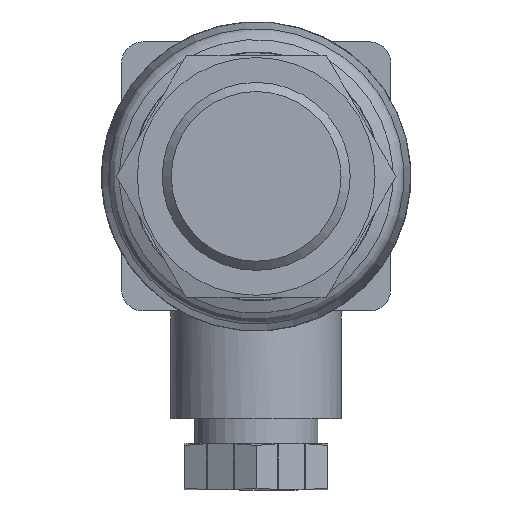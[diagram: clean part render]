
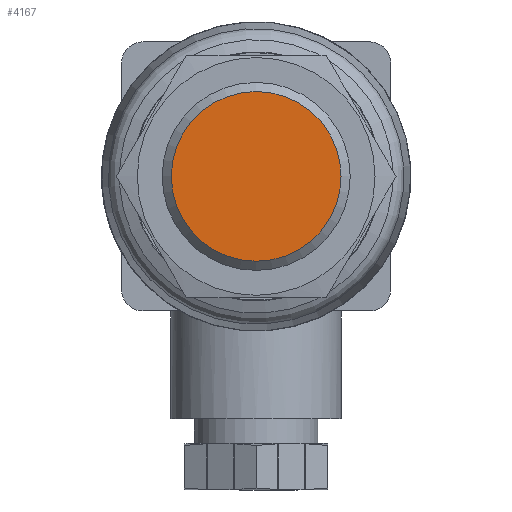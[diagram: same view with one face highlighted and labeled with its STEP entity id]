
A CAD part, left-side view. The second image highlights one B-rep face of the part: STEP entity #4167.
In plain terms, the highlighted planar face has unit normal (-1, 0, 0).
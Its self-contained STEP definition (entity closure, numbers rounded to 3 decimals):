
#403=FACE_OUTER_BOUND('',#649,.T.);
#649=EDGE_LOOP('',(#3733));
#825=CIRCLE('',#4562,9.458);
#1961=VERTEX_POINT('',#7022);
#2555=EDGE_CURVE('',#1961,#1961,#825,.T.);
#3733=ORIENTED_EDGE('',*,*,#2555,.F.);
#3907=PLANE('',#4564);
#4167=ADVANCED_FACE('',(#403),#3907,.T.);
#4562=AXIS2_PLACEMENT_3D('',#7023,#5698,#5699);
#4564=AXIS2_PLACEMENT_3D('',#7026,#5702,#5703);
#5698=DIRECTION('center_axis',(1.,0.,0.));
#5699=DIRECTION('ref_axis',(0.,-1.,0.));
#5702=DIRECTION('center_axis',(-1.,0.,0.));
#5703=DIRECTION('ref_axis',(0.,0.,1.));
#7022=CARTESIAN_POINT('',(0.,9.458,0.));
#7023=CARTESIAN_POINT('Origin',(0.,0.,0.));
#7026=CARTESIAN_POINT('Origin',(0.,6.064,0.));
